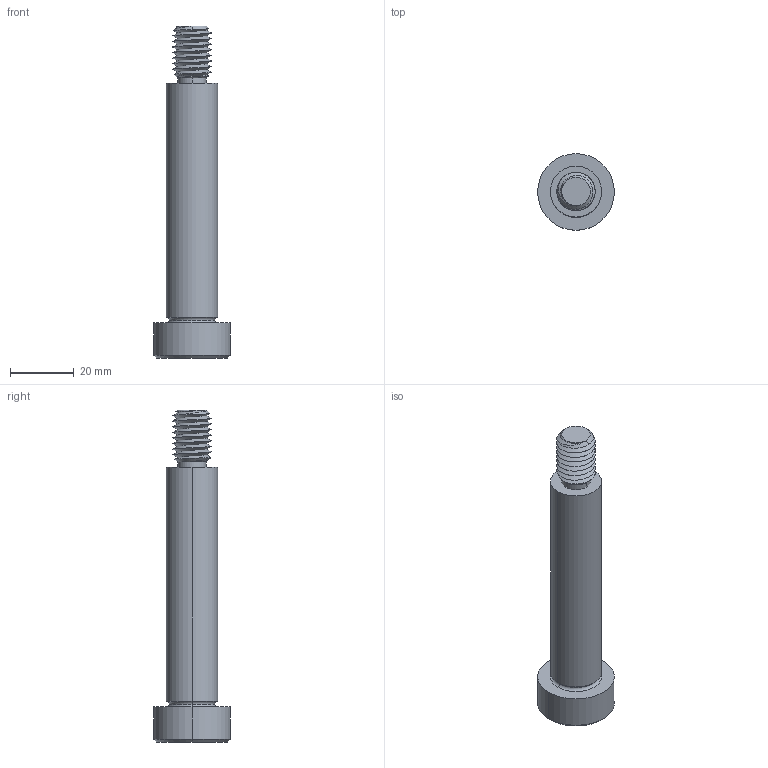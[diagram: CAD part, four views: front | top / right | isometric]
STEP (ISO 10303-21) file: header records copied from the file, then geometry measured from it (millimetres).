
FILE_DESCRIPTION (( 'STEP AP203' ), '1' );
FILE_NAME ('P0130.160-075-B2.step', '2021-11-09T22:18:30', ( '' ), ( '' ), 'SwSTEP 2.0', 'SolidWorks 2019', '' );
FILE_SCHEMA (( 'CONFIG_CONTROL_DESIGN' ));
Length unit declared in the file: millimetre
Products named in the file (1): P0130.160-075-B2
Bounding box: 24 x 24 x 104 mm (x, y, z)
Volume: 20985 mm3; surface area: 6813 mm2
Topology: 1 solids, 1 shells, 59 faces, 139 edges, 83 vertices
Faces by surface type: cylinder 22, plane 16, cone 15, torus 4, bspline 2
Entity records: 5164 total; most frequent: CARTESIAN_POINT 3839, ORIENTED_EDGE 274, DIRECTION 244, EDGE_CURVE 137, AXIS2_PLACEMENT_3D 98, VERTEX_POINT 83, EDGE_LOOP 62, ADVANCED_FACE 59
